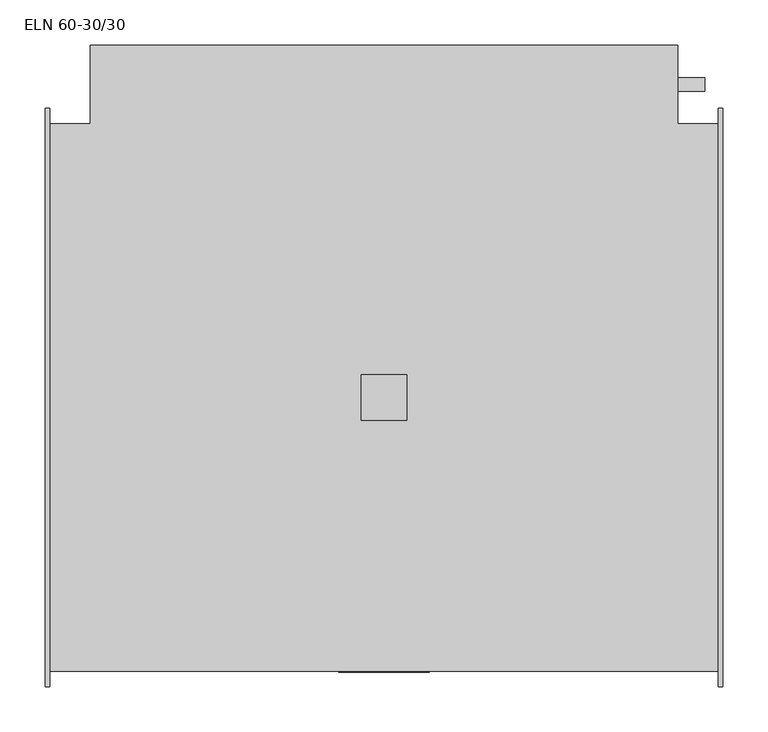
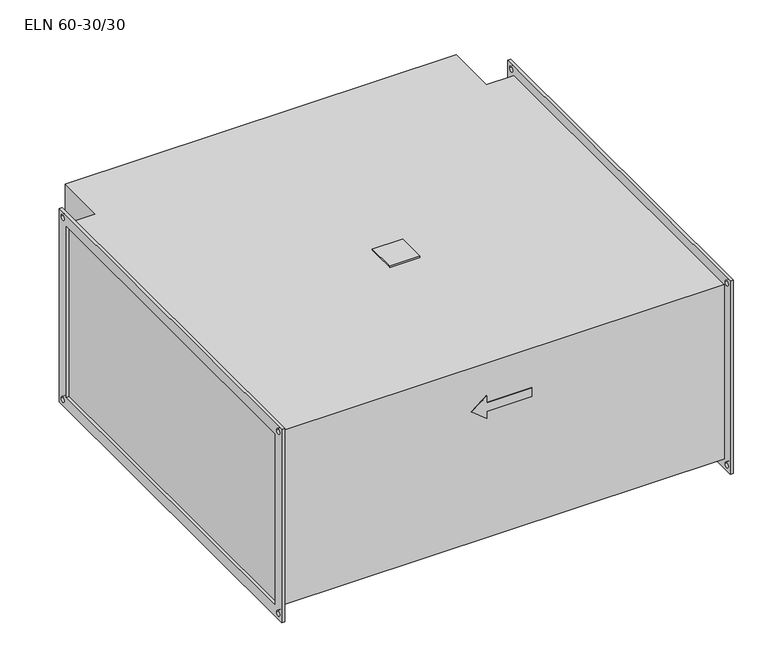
"""IFC4 building model written with IfcOpenShell, lengths in millimetres: proxy geometry, KORF_Нагреватель_Электрический_ELN : ELN 60-30/30."""

from ifc_helpers import new_model, si_unit, point, frame, frame_2d, origin, place, context, project, spatial, polyline, circle_curve, trimmed, segment, composite_curve, outline, extrude, source, transform, mapped, element, save


def eln_60_30_30_34ca2f9a(model_context):
    return source(origin(), model_context, "Body", "SweptSolid", [
        extrude(outline(polyline([(350.0, -25.0), (350.0, 25.0), (400.0, 25.0), (400.0, -25.0), (350.0, -25.0)])), frame((0.0, 0.0, 153.0), z_axis=(0.0, 0.0, 1.0), x_axis=(1.0, 0.0, 0.0)), (0.0, 0.0, 1.0), 2.0),
        extrude(outline(composite_curve([segment(trimmed(circle_curve(frame_2d((346.5, -76.5)), 7.5), [point((339.0, -76.5))], [point((354.0, -76.5))], False, "CARTESIAN"), True, "CONTINUOUS"), segment(trimmed(circle_curve(frame_2d((346.5, -76.5)), 7.5), [point((354.0, -76.5))], [point((339.0, -76.5))], False, "CARTESIAN"), True, "CONTINUOUS")], self_intersect=False)), frame((700.0, 0.0, 0.0), z_axis=(1.0, 0.0, 0.0), x_axis=(0.0, 1.0, 0.0)), (0.0, 0.0, 1.0), 30.0),
        extrude(outline(composite_curve([segment(trimmed(circle_curve(frame_2d((346.5, -56.5)), 7.5), [point((339.0, -56.5))], [point((354.0, -56.5))], False, "CARTESIAN"), True, "CONTINUOUS"), segment(trimmed(circle_curve(frame_2d((346.5, -56.5)), 7.5), [point((354.0, -56.5))], [point((339.0, -56.5))], False, "CARTESIAN"), True, "CONTINUOUS")], self_intersect=False)), frame((700.0, 0.0, 0.0), z_axis=(1.0, 0.0, 0.0), x_axis=(0.0, 1.0, 0.0)), (0.0, 0.0, 1.0), 30.0),
        extrude(outline(composite_curve([segment(trimmed(circle_curve(frame_2d((346.5, -96.5)), 7.5), [point((339.0, -96.5))], [point((354.0, -96.5))], False, "CARTESIAN"), True, "CONTINUOUS"), segment(trimmed(circle_curve(frame_2d((346.5, -96.5)), 7.5), [point((354.0, -96.5))], [point((339.0, -96.5))], False, "CARTESIAN"), True, "CONTINUOUS")], self_intersect=False)), frame((700.0, 0.0, 0.0), z_axis=(1.0, 0.0, 0.0), x_axis=(0.0, 1.0, 0.0)), (0.0, 0.0, 1.0), 30.0),
        extrude(outline(polyline([(96.5, 350.0), (76.5, 325.0), (56.5, 350.0), (69.0, 350.0), (69.0, 425.0), (84.0, 425.0), (84.0, 350.0), (96.5, 350.0)])), frame((0.0, -304.0, 0.0), z_axis=(0.0, 1.0, 0.0), x_axis=(0.0, 0.0, 1.0)), (0.0, 0.0, 1.0), 1.0),
        extrude(outline(polyline([(745.0, 303.0), (745.0, -303.0), (5.0, -303.0), (5.0, 303.0), (50.0, 303.0), (50.0, 390.0), (700.0, 390.0), (700.0, 303.0), (745.0, 303.0)])), frame((0.0, 0.0, -153.0), z_axis=(0.0, 0.0, 1.0), x_axis=(1.0, 0.0, 0.0)), (0.0, 0.0, 1.0), 306.0),
        extrude(outline(polyline([(-320.0, 170.0), (320.0, 170.0), (320.0, -170.0), (-320.0, -170.0), (-320.0, 170.0)]), holes=[polyline([(-300.0, 150.0), (-300.0, -150.0), (300.0, -150.0), (300.0, 150.0), (-300.0, 150.0)]), composite_curve([segment(trimmed(circle_curve(frame_2d((310.0, 160.0)), 4.5), [point((305.5, 160.0))], [point((314.5, 160.0))], True, "CARTESIAN"), True, "CONTINUOUS"), segment(trimmed(circle_curve(frame_2d((310.0, 160.0)), 4.5), [point((314.5, 160.0))], [point((305.5, 160.0))], True, "CARTESIAN"), True, "CONTINUOUS")], self_intersect=False), composite_curve([segment(trimmed(circle_curve(frame_2d((-310.0, 160.0)), 4.5), [point((-314.5, 160.0))], [point((-305.5, 160.0))], True, "CARTESIAN"), True, "CONTINUOUS"), segment(trimmed(circle_curve(frame_2d((-310.0, 160.0)), 4.5), [point((-305.5, 160.0))], [point((-314.5, 160.0))], True, "CARTESIAN"), True, "CONTINUOUS")], self_intersect=False), composite_curve([segment(trimmed(circle_curve(frame_2d((-310.0, -160.0)), 4.5), [point((-314.5, -160.0))], [point((-305.5, -160.0))], True, "CARTESIAN"), True, "CONTINUOUS"), segment(trimmed(circle_curve(frame_2d((-310.0, -160.0)), 4.5), [point((-305.5, -160.0))], [point((-314.5, -160.0))], True, "CARTESIAN"), True, "CONTINUOUS")], self_intersect=False), composite_curve([segment(trimmed(circle_curve(frame_2d((310.0, -160.0)), 4.5), [point((305.5, -160.0))], [point((314.5, -160.0))], True, "CARTESIAN"), True, "CONTINUOUS"), segment(trimmed(circle_curve(frame_2d((310.0, -160.0)), 4.5), [point((314.5, -160.0))], [point((305.5, -160.0))], True, "CARTESIAN"), True, "CONTINUOUS")], self_intersect=False)]), frame((745.0, 0.0, 0.0), z_axis=(1.0, 0.0, 0.0), x_axis=(0.0, 1.0, 0.0)), (0.0, 0.0, 1.0), 5.0),
        extrude(outline(polyline([(-320.0, 170.0), (320.0, 170.0), (320.0, -170.0), (-320.0, -170.0), (-320.0, 170.0)]), holes=[polyline([(-300.0, 150.0), (-300.0, -150.0), (300.0, -150.0), (300.0, 150.0), (-300.0, 150.0)]), composite_curve([segment(trimmed(circle_curve(frame_2d((310.0, 160.0)), 4.5), [point((305.5, 160.0))], [point((314.5, 160.0))], True, "CARTESIAN"), True, "CONTINUOUS"), segment(trimmed(circle_curve(frame_2d((310.0, 160.0)), 4.5), [point((314.5, 160.0))], [point((305.5, 160.0))], True, "CARTESIAN"), True, "CONTINUOUS")], self_intersect=False), composite_curve([segment(trimmed(circle_curve(frame_2d((-310.0, 160.0)), 4.5), [point((-314.5, 160.0))], [point((-305.5, 160.0))], True, "CARTESIAN"), True, "CONTINUOUS"), segment(trimmed(circle_curve(frame_2d((-310.0, 160.0)), 4.5), [point((-305.5, 160.0))], [point((-314.5, 160.0))], True, "CARTESIAN"), True, "CONTINUOUS")], self_intersect=False), composite_curve([segment(trimmed(circle_curve(frame_2d((-310.0, -160.0)), 4.5), [point((-314.5, -160.0))], [point((-305.5, -160.0))], True, "CARTESIAN"), True, "CONTINUOUS"), segment(trimmed(circle_curve(frame_2d((-310.0, -160.0)), 4.5), [point((-305.5, -160.0))], [point((-314.5, -160.0))], True, "CARTESIAN"), True, "CONTINUOUS")], self_intersect=False), composite_curve([segment(trimmed(circle_curve(frame_2d((310.0, -160.0)), 4.5), [point((305.5, -160.0))], [point((314.5, -160.0))], True, "CARTESIAN"), True, "CONTINUOUS"), segment(trimmed(circle_curve(frame_2d((310.0, -160.0)), 4.5), [point((314.5, -160.0))], [point((305.5, -160.0))], True, "CARTESIAN"), True, "CONTINUOUS")], self_intersect=False)]), frame((0.0, 0.0, 0.0), z_axis=(1.0, 0.0, 0.0), x_axis=(0.0, 1.0, 0.0)), (0.0, 0.0, 1.0), 5.0),
    ])


if __name__ == "__main__":
    model = new_model("IFC4")
    model_context = context("Model", 3, world=origin())
    ifc_project = project(units=[si_unit("LENGTHUNIT", "METRE", prefix="MILLI")], contexts=[model_context])
    site = spatial("IfcSite", under=ifc_project)
    building = spatial("IfcBuilding", under=site)
    placement = place(None, origin())
    eln_60_30_30_shape = eln_60_30_30_34ca2f9a(model_context)
    element("IfcBuildingElementProxy", 1, Name="KORF_Нагреватель_Электрический_ELN : ELN 60-30/30", ObjectType="KORF_Нагреватель_Электрический_ELN : ELN 60-30/30", at=placement, inside=building, context=model_context, shape_type="MappedRepresentation", body=[
        mapped(eln_60_30_30_shape, transform((0.0, 0.0, 0.0), x_axis=(1.0, 0.0, 0.0), y_axis=(0.0, 1.0, 0.0), z_axis=(0.0, 0.0, 1.0))),
    ])
    save(model, "model.ifc")
